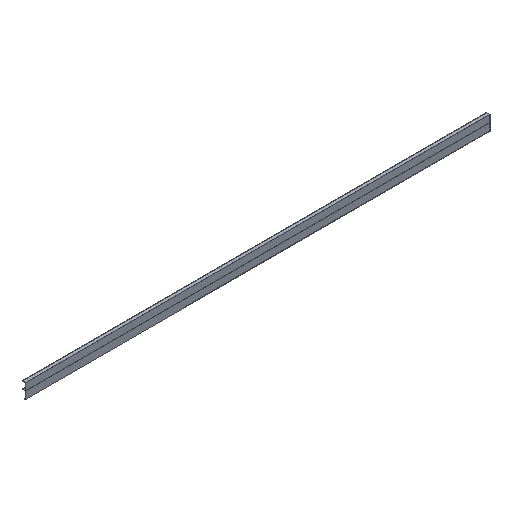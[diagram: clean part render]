
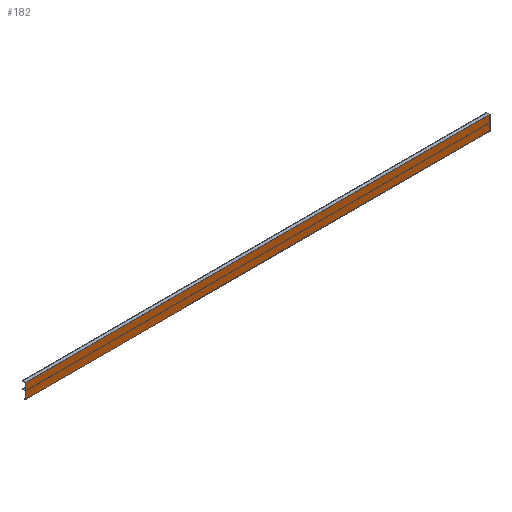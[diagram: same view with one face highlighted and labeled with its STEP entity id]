
A CAD part, isometric view. The second image highlights one B-rep face of the part: STEP entity #182.
In plain terms, the highlighted planar face has unit normal (0, -1, 0).
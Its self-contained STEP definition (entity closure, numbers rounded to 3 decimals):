
#182=ADVANCED_FACE('',(#372),#373,.T.);
#372=FACE_OUTER_BOUND('',#563,.T.);
#373=PLANE('',#564);
#563=EDGE_LOOP('',(#1053,#1054,#1055,#1056));
#564=AXIS2_PLACEMENT_3D('',#1057,#1058,#1059);
#1053=ORIENTED_EDGE('',*,*,#1317,.T.);
#1054=ORIENTED_EDGE('',*,*,#1347,.F.);
#1055=ORIENTED_EDGE('',*,*,#1348,.F.);
#1056=ORIENTED_EDGE('',*,*,#1344,.T.);
#1057=CARTESIAN_POINT('',(0.0,-15.5,0.0));
#1058=DIRECTION('',(0.0,-1.0,0.0));
#1059=DIRECTION('',(0.0,0.0,-1.0));
#1317=EDGE_CURVE('',#1618,#1616,#1619,.T.);
#1344=EDGE_CURVE('',#1660,#1618,#1661,.T.);
#1347=EDGE_CURVE('',#1664,#1616,#1665,.T.);
#1348=EDGE_CURVE('',#1660,#1664,#1666,.T.);
#1616=VERTEX_POINT('',#2019);
#1618=VERTEX_POINT('',#2022);
#1619=LINE('',#2023,#2024);
#1660=VERTEX_POINT('',#2085);
#1661=LINE('',#2086,#2087);
#1664=VERTEX_POINT('',#2091);
#1665=LINE('',#2092,#2093);
#1666=LINE('',#2094,#2095);
#2019=CARTESIAN_POINT('',(2050.0,-15.5,0.0));
#2022=CARTESIAN_POINT('',(2050.0,-15.5,-65.0));
#2023=CARTESIAN_POINT('',(2050.0,-15.5,-15.25));
#2024=VECTOR('',#2346,1.0);
#2085=CARTESIAN_POINT('',(0.0,-15.5,-65.0));
#2086=CARTESIAN_POINT('',(0.0,-15.5,-65.0));
#2087=VECTOR('',#2367,1.0);
#2091=CARTESIAN_POINT('',(0.0,-15.5,0.0));
#2092=CARTESIAN_POINT('',(0.0,-15.5,0.0));
#2093=VECTOR('',#2369,1.0);
#2094=CARTESIAN_POINT('',(0.0,-15.5,-61.0));
#2095=VECTOR('',#2370,1.0);
#2346=DIRECTION('',(0.0,0.0,1.0));
#2367=DIRECTION('',(1.0,0.0,0.0));
#2369=DIRECTION('',(1.0,0.0,0.0));
#2370=DIRECTION('',(0.0,0.0,1.0));
